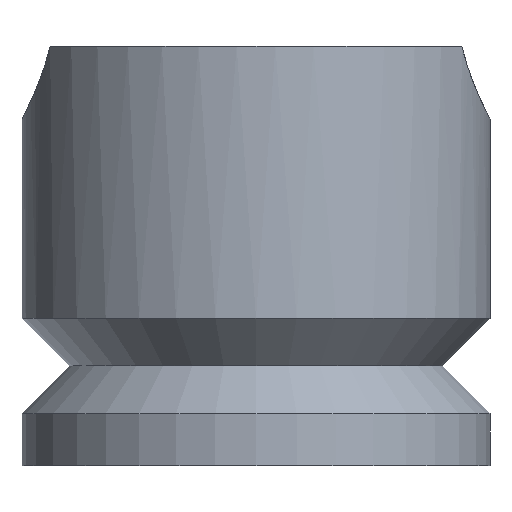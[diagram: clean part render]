
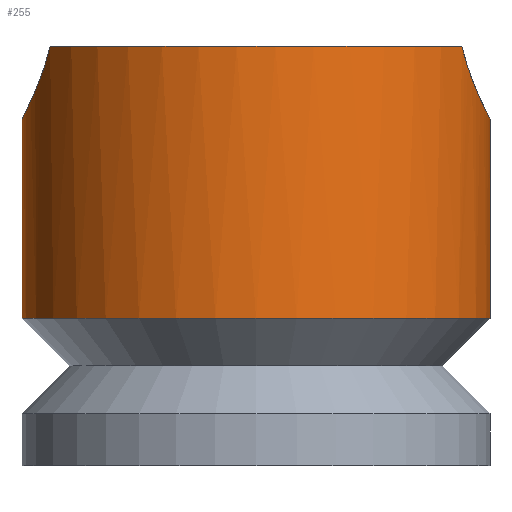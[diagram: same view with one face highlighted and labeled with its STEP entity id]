
A CAD part, front view. The second image highlights one B-rep face of the part: STEP entity #255.
In plain terms, the highlighted cylindrical face has radius 13.5 mm (diameter 27 mm), a partial arc.
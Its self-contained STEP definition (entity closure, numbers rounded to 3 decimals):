
#2 = ORIENTED_EDGE ( 'NONE', *, *, #1291, .T. ) ;
#15 = VERTEX_POINT ( 'NONE', #1240 ) ;
#27 = CARTESIAN_POINT ( 'NONE',  ( -13.486, -0.7, 20.019 ) ) ;
#34 = CARTESIAN_POINT ( 'NONE',  ( -13.5, -0.35, 19.992 ) ) ;
#64 = VECTOR ( 'NONE', #214, 1000. ) ;
#74 = AXIS2_PLACEMENT_3D ( 'NONE', #1366, #425, #217 ) ;
#82 = CARTESIAN_POINT ( 'NONE',  ( -13.016, -3.596, 20.977 ) ) ;
#90 = CARTESIAN_POINT ( 'NONE',  ( 0., 0., 8.5 ) ) ;
#146 = CARTESIAN_POINT ( 'NONE',  ( -13.394, -1.718, 20.198 ) ) ;
#166 = AXIS2_PLACEMENT_3D ( 'NONE', #90, #1161, #1283 ) ;
#171 = ORIENTED_EDGE ( 'NONE', *, *, #709, .T. ) ;
#175 = VERTEX_POINT ( 'NONE', #317 ) ;
#180 = VECTOR ( 'NONE', #1184, 1000. ) ;
#185 = CARTESIAN_POINT ( 'NONE',  ( 13.096, -3.293, 20.806 ) ) ;
#186 = FACE_OUTER_BOUND ( 'NONE', #1290, .T. ) ;
#190 = CARTESIAN_POINT ( 'NONE',  ( 12.851, -4.147, 21.343 ) ) ;
#214 = DIRECTION ( 'NONE',  ( 0., 0., -1. ) ) ;
#217 = DIRECTION ( 'NONE',  ( -1., 0., 0. ) ) ;
#218 = EDGE_CURVE ( 'NONE', #564, #408, #1059, .T. ) ;
#255 = ADVANCED_FACE ( 'NONE', ( #186 ), #519, .T. ) ;
#285 = CARTESIAN_POINT ( 'NONE',  ( 13.234, -2.683, 20.518 ) ) ;
#292 = CARTESIAN_POINT ( 'NONE',  ( 11.878, -6.416, 24.192 ) ) ;
#317 = CARTESIAN_POINT ( 'NONE',  ( 13.5, 0., 19.992 ) ) ;
#321 = ORIENTED_EDGE ( 'NONE', *, *, #986, .F. ) ;
#322 = EDGE_CURVE ( 'NONE', #15, #818, #719, .T. ) ;
#328 = CARTESIAN_POINT ( 'NONE',  ( -13.5, 0., 19.992 ) ) ;
#359 = DIRECTION ( 'NONE',  ( -1., 0., 0. ) ) ;
#383 = CARTESIAN_POINT ( 'NONE',  ( 11.878, -6.416, 24.192 ) ) ;
#405 = CARTESIAN_POINT ( 'NONE',  ( -13.234, -2.684, 20.518 ) ) ;
#408 = VERTEX_POINT ( 'NONE', #328 ) ;
#425 = DIRECTION ( 'NONE',  ( 0., 0., -1. ) ) ;
#429 = CARTESIAN_POINT ( 'NONE',  ( -13.295, -2.368, 20.396 ) ) ;
#485 = CARTESIAN_POINT ( 'NONE',  ( 0., 0., 24.192 ) ) ;
#519 = CYLINDRICAL_SURFACE ( 'NONE', #74, 13.5 ) ;
#523 = CARTESIAN_POINT ( 'NONE',  ( 13.296, -2.363, 20.394 ) ) ;
#536 = CARTESIAN_POINT ( 'NONE',  ( -12.849, -4.152, 21.347 ) ) ;
#548 = CARTESIAN_POINT ( 'NONE',  ( -13.433, -1.385, 20.122 ) ) ;
#563 = LINE ( 'NONE', #964, #64 ) ;
#564 = VERTEX_POINT ( 'NONE', #880 ) ;
#603 = AXIS2_PLACEMENT_3D ( 'NONE', #485, #1221, #359 ) ;
#613 = CARTESIAN_POINT ( 'NONE',  ( -11.878, -6.416, 24.192 ) ) ;
#627 = CARTESIAN_POINT ( 'NONE',  ( -12.204, -5.79, 23.003 ) ) ;
#635 = CARTESIAN_POINT ( 'NONE',  ( -12.76, -4.415, 21.55 ) ) ;
#648 = CIRCLE ( 'NONE', #603, 13.5 ) ;
#681 = ORIENTED_EDGE ( 'NONE', *, *, #761, .T. ) ;
#709 = EDGE_CURVE ( 'NONE', #175, #1324, #1339, .T. ) ;
#719 = CIRCLE ( 'NONE', #166, 13.5 ) ;
#733 = CARTESIAN_POINT ( 'NONE',  ( 12.485, -5.141, 22.229 ) ) ;
#761 = EDGE_CURVE ( 'NONE', #408, #818, #563, .T. ) ;
#806 = ORIENTED_EDGE ( 'NONE', *, *, #322, .F. ) ;
#818 = VERTEX_POINT ( 'NONE', #970 ) ;
#819 = CARTESIAN_POINT ( 'NONE',  ( 13.446, -1.376, 20.094 ) ) ;
#826 = CARTESIAN_POINT ( 'NONE',  ( 11.952, -6.279, 23.88 ) ) ;
#833 = CARTESIAN_POINT ( 'NONE',  ( 13.018, -3.586, 20.971 ) ) ;
#880 = CARTESIAN_POINT ( 'NONE',  ( -11.878, -6.416, 24.192 ) ) ;
#896 = LINE ( 'NONE', #1322, #180 ) ;
#925 = CARTESIAN_POINT ( 'NONE',  ( 13.5, 0., 19.992 ) ) ;
#928 = CARTESIAN_POINT ( 'NONE',  ( 12.578, -4.91, 21.992 ) ) ;
#943 = CARTESIAN_POINT ( 'NONE',  ( 12.034, -6.122, 23.582 ) ) ;
#962 = CARTESIAN_POINT ( 'NONE',  ( -13.094, -3.299, 20.809 ) ) ;
#964 = CARTESIAN_POINT ( 'NONE',  ( -13.5, 0., 67.376 ) ) ;
#970 = CARTESIAN_POINT ( 'NONE',  ( -13.5, 0., 8.5 ) ) ;
#986 = EDGE_CURVE ( 'NONE', #175, #15, #896, .T. ) ;
#1044 = CARTESIAN_POINT ( 'NONE',  ( -12.577, -4.912, 21.994 ) ) ;
#1058 = CARTESIAN_POINT ( 'NONE',  ( -12.026, -6.143, 23.566 ) ) ;
#1059 = B_SPLINE_CURVE_WITH_KNOTS ( 'NONE', 3,
 ( #613, #1058, #627, #1376, #1044, #635, #536, #82, #962, #405, #429, #146, #548, #27, #34, #1087 ),
 .UNSPECIFIED., .F., .F.,
 ( 4, 2, 2, 2, 2, 2, 2, 4 ),
 ( 0., 0.002, 0.003, 0.004, 0.005, 0.006, 0.007, 0.008 ),
 .UNSPECIFIED. ) ;
#1087 = CARTESIAN_POINT ( 'NONE',  ( -13.5, 0., 19.992 ) ) ;
#1161 = DIRECTION ( 'NONE',  ( 0., 0., -1. ) ) ;
#1168 = ORIENTED_EDGE ( 'NONE', *, *, #218, .T. ) ;
#1184 = DIRECTION ( 'NONE',  ( 0., 0., -1. ) ) ;
#1221 = DIRECTION ( 'NONE',  ( 0., 0., -1. ) ) ;
#1240 = CARTESIAN_POINT ( 'NONE',  ( 13.5, 0., 8.5 ) ) ;
#1255 = CARTESIAN_POINT ( 'NONE',  ( 12.207, -5.768, 23.012 ) ) ;
#1283 = DIRECTION ( 'NONE',  ( 1., 0., 0. ) ) ;
#1290 = EDGE_LOOP ( 'NONE', ( #321, #171, #2, #1168, #681, #806 ) ) ;
#1291 = EDGE_CURVE ( 'NONE', #1324, #564, #648, .T. ) ;
#1322 = CARTESIAN_POINT ( 'NONE',  ( 13.5, 0., 67.376 ) ) ;
#1324 = VERTEX_POINT ( 'NONE', #383 ) ;
#1339 = B_SPLINE_CURVE_WITH_KNOTS ( 'NONE', 3,
 ( #925, #1352, #819, #523, #285, #185, #833, #190, #1364, #928, #733, #1358, #1255, #943, #826, #292 ),
 .UNSPECIFIED., .F., .F.,
 ( 4, 2, 2, 2, 2, 2, 2, 4 ),
 ( 0.008, 0.01, 0.011, 0.012, 0.013, 0.014, 0.015, 0.016 ),
 .UNSPECIFIED. ) ;
#1352 = CARTESIAN_POINT ( 'NONE',  ( 13.5, -0.698, 19.992 ) ) ;
#1358 = CARTESIAN_POINT ( 'NONE',  ( 12.3, -5.569, 22.739 ) ) ;
#1364 = CARTESIAN_POINT ( 'NONE',  ( 12.761, -4.414, 21.549 ) ) ;
#1366 = CARTESIAN_POINT ( 'NONE',  ( 0., 0., 67.376 ) ) ;
#1376 = CARTESIAN_POINT ( 'NONE',  ( -12.482, -5.147, 22.236 ) ) ;
